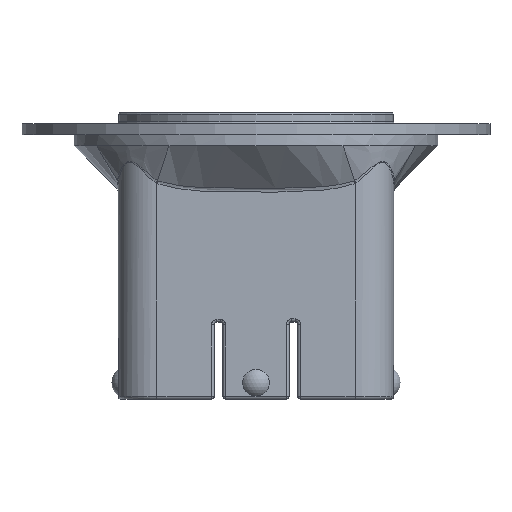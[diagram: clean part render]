
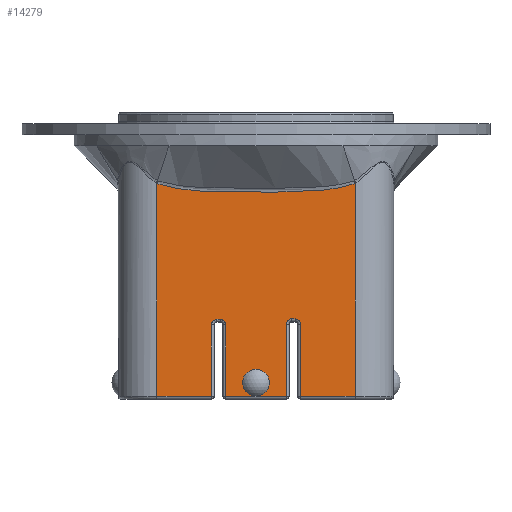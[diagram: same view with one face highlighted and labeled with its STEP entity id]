
A CAD part, left-side view. The second image highlights one B-rep face of the part: STEP entity #14279.
In plain terms, the highlighted planar face has unit normal (-1, 0, 0).
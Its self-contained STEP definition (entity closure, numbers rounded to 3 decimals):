
#535=PLANE('',#15183);
#795=CIRCLE('',#15184,1.);
#796=CIRCLE('',#15185,1.);
#797=CIRCLE('',#15186,1.);
#798=CIRCLE('',#15187,1.);
#799=CIRCLE('',#15188,2.437);
#1144=VECTOR('',#16104,1.);
#1145=VECTOR('',#16105,1.);
#1146=VECTOR('',#16106,1.);
#1147=VECTOR('',#16109,1.);
#1148=VECTOR('',#16112,1.);
#1149=VECTOR('',#16113,1.);
#1150=VECTOR('',#16114,1.);
#1151=VECTOR('',#16117,1.);
#1152=VECTOR('',#16120,1.);
#1153=VECTOR('',#16121,1.);
#1154=VECTOR('',#16122,1.);
#2194=LINE('',#27147,#1144);
#2195=LINE('',#27149,#1145);
#2196=LINE('',#27151,#1146);
#2197=LINE('',#27155,#1147);
#2198=LINE('',#27159,#1148);
#2199=LINE('',#27161,#1149);
#2200=LINE('',#27163,#1150);
#2201=LINE('',#27167,#1151);
#2202=LINE('',#27171,#1152);
#2203=LINE('',#27173,#1153);
#2204=LINE('',#27175,#1154);
#3279=VERTEX_POINT('',#22146);
#3280=VERTEX_POINT('',#22165);
#3333=VERTEX_POINT('',#27148);
#3334=VERTEX_POINT('',#27150);
#3335=VERTEX_POINT('',#27152);
#3336=VERTEX_POINT('',#27154);
#3337=VERTEX_POINT('',#27156);
#3338=VERTEX_POINT('',#27158);
#3339=VERTEX_POINT('',#27160);
#3340=VERTEX_POINT('',#27162);
#3341=VERTEX_POINT('',#27164);
#3342=VERTEX_POINT('',#27166);
#3343=VERTEX_POINT('',#27168);
#3344=VERTEX_POINT('',#27170);
#3345=VERTEX_POINT('',#27172);
#3346=VERTEX_POINT('',#27174);
#3347=VERTEX_POINT('',#27177);
#4714=B_SPLINE_CURVE_WITH_KNOTS('',3,(#22147,#22148,#22149,#22150,#22151,
#22152,#22153,#22154,#22155,#22156,#22157,#22158,#22159,#22160,#22161,#22162,
#22163,#22164),.UNSPECIFIED.,.F.,.U.,(4,2,2,2,2,2,2,2,4),(-4.29,
-3.579,-2.872,-2.43,-2.154,
-1.878,-1.436,-0.835,-0.01),
 .UNSPECIFIED.);
#5613=EDGE_CURVE('',#3279,#3280,#4714,.T.);
#5688=EDGE_CURVE('',#3333,#3279,#2194,.T.);
#5689=EDGE_CURVE('',#3334,#3333,#2195,.T.);
#5690=EDGE_CURVE('',#3335,#3334,#2196,.T.);
#5691=EDGE_CURVE('',#3336,#3335,#795,.T.);
#5692=EDGE_CURVE('',#3337,#3336,#2197,.T.);
#5693=EDGE_CURVE('',#3338,#3337,#796,.T.);
#5694=EDGE_CURVE('',#3339,#3338,#2198,.T.);
#5695=EDGE_CURVE('',#3340,#3339,#2199,.T.);
#5696=EDGE_CURVE('',#3341,#3340,#2200,.T.);
#5697=EDGE_CURVE('',#3342,#3341,#797,.T.);
#5698=EDGE_CURVE('',#3343,#3342,#2201,.T.);
#5699=EDGE_CURVE('',#3344,#3343,#798,.T.);
#5700=EDGE_CURVE('',#3345,#3344,#2202,.T.);
#5701=EDGE_CURVE('',#3346,#3345,#2203,.T.);
#5702=EDGE_CURVE('',#3280,#3346,#2204,.T.);
#5703=EDGE_CURVE('',#3347,#3347,#799,.T.);
#8054=ORIENTED_EDGE('',*,*,#5613,.F.);
#8055=ORIENTED_EDGE('',*,*,#5688,.F.);
#8056=ORIENTED_EDGE('',*,*,#5689,.F.);
#8057=ORIENTED_EDGE('',*,*,#5690,.F.);
#8058=ORIENTED_EDGE('',*,*,#5691,.F.);
#8059=ORIENTED_EDGE('',*,*,#5692,.F.);
#8060=ORIENTED_EDGE('',*,*,#5693,.F.);
#8061=ORIENTED_EDGE('',*,*,#5694,.F.);
#8062=ORIENTED_EDGE('',*,*,#5695,.F.);
#8063=ORIENTED_EDGE('',*,*,#5696,.F.);
#8064=ORIENTED_EDGE('',*,*,#5697,.F.);
#8065=ORIENTED_EDGE('',*,*,#5698,.F.);
#8066=ORIENTED_EDGE('',*,*,#5699,.F.);
#8067=ORIENTED_EDGE('',*,*,#5700,.F.);
#8068=ORIENTED_EDGE('',*,*,#5701,.F.);
#8069=ORIENTED_EDGE('',*,*,#5702,.F.);
#8070=ORIENTED_EDGE('',*,*,#5703,.T.);
#12350=EDGE_LOOP('',(#8054,#8055,#8056,#8057,#8058,#8059,#8060,#8061,#8062,
#8063,#8064,#8065,#8066,#8067,#8068,#8069));
#12351=EDGE_LOOP('',(#8070));
#13324=FACE_BOUND('',#12350,.T.);
#13325=FACE_BOUND('',#12351,.T.);
#14279=ADVANCED_FACE('',(#13324,#13325),#535,.T.);
#15183=AXIS2_PLACEMENT_3D('',#27146,#16103,$);
#15184=AXIS2_PLACEMENT_3D('',#27153,#16107,#16108);
#15185=AXIS2_PLACEMENT_3D('',#27157,#16110,#16111);
#15186=AXIS2_PLACEMENT_3D('',#27165,#16115,#16116);
#15187=AXIS2_PLACEMENT_3D('',#27169,#16118,#16119);
#15188=AXIS2_PLACEMENT_3D('',#27176,#16123,#16124);
#16103=DIRECTION('',(-1.,0.,0.));
#16104=DIRECTION('',(0.,0.,1.));
#16105=DIRECTION('',(0.,1.,0.));
#16106=DIRECTION('',(0.,0.,-1.));
#16107=DIRECTION('',(-1.,0.,0.));
#16108=DIRECTION('',(0.,0.707,0.707));
#16109=DIRECTION('',(0.,1.,0.));
#16110=DIRECTION('',(-1.,0.,0.));
#16111=DIRECTION('',(0.,-0.707,0.707));
#16112=DIRECTION('',(0.,0.,1.));
#16113=DIRECTION('',(0.,1.,0.));
#16114=DIRECTION('',(0.,0.,-1.));
#16115=DIRECTION('',(-1.,0.,0.));
#16116=DIRECTION('',(0.,0.707,0.707));
#16117=DIRECTION('',(0.,1.,0.));
#16118=DIRECTION('',(-1.,0.,0.));
#16119=DIRECTION('',(0.,-0.707,0.707));
#16120=DIRECTION('',(0.,0.,1.));
#16121=DIRECTION('',(0.,1.,0.));
#16122=DIRECTION('',(0.,0.,-1.));
#16123=DIRECTION('',(1.,0.,0.));
#16124=DIRECTION('',(0.,0.,-2.437));
#22146=CARTESIAN_POINT('',(0.,43.,39.165));
#22147=CARTESIAN_POINT('',(0.,43.,39.165));
#22148=CARTESIAN_POINT('',(0.,41.775,38.743));
#22149=CARTESIAN_POINT('',(0.,40.446,38.429));
#22150=CARTESIAN_POINT('',(0.,37.518,37.965));
#22151=CARTESIAN_POINT('',(0.,35.921,37.816));
#22152=CARTESIAN_POINT('',(0.,33.045,37.67));
#22153=CARTESIAN_POINT('',(0.,31.872,37.637));
#22154=CARTESIAN_POINT('',(0.,29.843,37.605));
#22155=CARTESIAN_POINT('',(0.,29.033,37.597));
#22156=CARTESIAN_POINT('',(0.,27.35,37.588));
#22157=CARTESIAN_POINT('',(0.,26.478,37.587));
#22158=CARTESIAN_POINT('',(0.,24.12,37.585));
#22159=CARTESIAN_POINT('',(0.,22.623,37.586));
#22160=CARTESIAN_POINT('',(0.,19.123,37.612));
#22161=CARTESIAN_POINT('',(0.,17.103,37.644));
#22162=CARTESIAN_POINT('',(0.,12.349,37.94));
#22163=CARTESIAN_POINT('',(0.,9.599,38.268));
#22164=CARTESIAN_POINT('',(0.,7.,39.165));
#22165=CARTESIAN_POINT('',(0.,7.,39.165));
#27146=CARTESIAN_POINT('',(0.,25.,0.));
#27147=CARTESIAN_POINT('',(0.,43.,0.));
#27148=CARTESIAN_POINT('',(0.,43.,0.5));
#27149=CARTESIAN_POINT('',(0.,25.,0.5));
#27150=CARTESIAN_POINT('',(0.,33.087,0.5));
#27151=CARTESIAN_POINT('',(0.,33.087,3.5));
#27152=CARTESIAN_POINT('',(0.,33.087,13.5));
#27153=CARTESIAN_POINT('',(0.,32.087,13.5));
#27154=CARTESIAN_POINT('',(0.,32.087,14.5));
#27155=CARTESIAN_POINT('',(0.,28.397,14.5));
#27156=CARTESIAN_POINT('',(0.,31.5,14.5));
#27157=CARTESIAN_POINT('',(0.,31.5,13.5));
#27158=CARTESIAN_POINT('',(0.,30.5,13.5));
#27159=CARTESIAN_POINT('',(0.,30.5,3.5));
#27160=CARTESIAN_POINT('',(0.,30.5,0.5));
#27161=CARTESIAN_POINT('',(0.,25.,0.5));
#27162=CARTESIAN_POINT('',(0.,19.5,0.5));
#27163=CARTESIAN_POINT('',(0.,19.5,3.5));
#27164=CARTESIAN_POINT('',(0.,19.5,13.604));
#27165=CARTESIAN_POINT('',(0.,18.5,13.604));
#27166=CARTESIAN_POINT('',(0.,18.5,14.604));
#27167=CARTESIAN_POINT('',(0.,21.603,14.604));
#27168=CARTESIAN_POINT('',(0.,17.912,14.604));
#27169=CARTESIAN_POINT('',(0.,17.912,13.604));
#27170=CARTESIAN_POINT('',(0.,16.912,13.604));
#27171=CARTESIAN_POINT('',(0.,16.912,3.5));
#27172=CARTESIAN_POINT('',(0.,16.912,0.5));
#27173=CARTESIAN_POINT('',(0.,25.,0.5));
#27174=CARTESIAN_POINT('',(0.,7.,0.5));
#27175=CARTESIAN_POINT('',(0.,7.,0.));
#27176=CARTESIAN_POINT('',(0.,25.,3.));
#27177=CARTESIAN_POINT('',(0.,25.,5.437));
